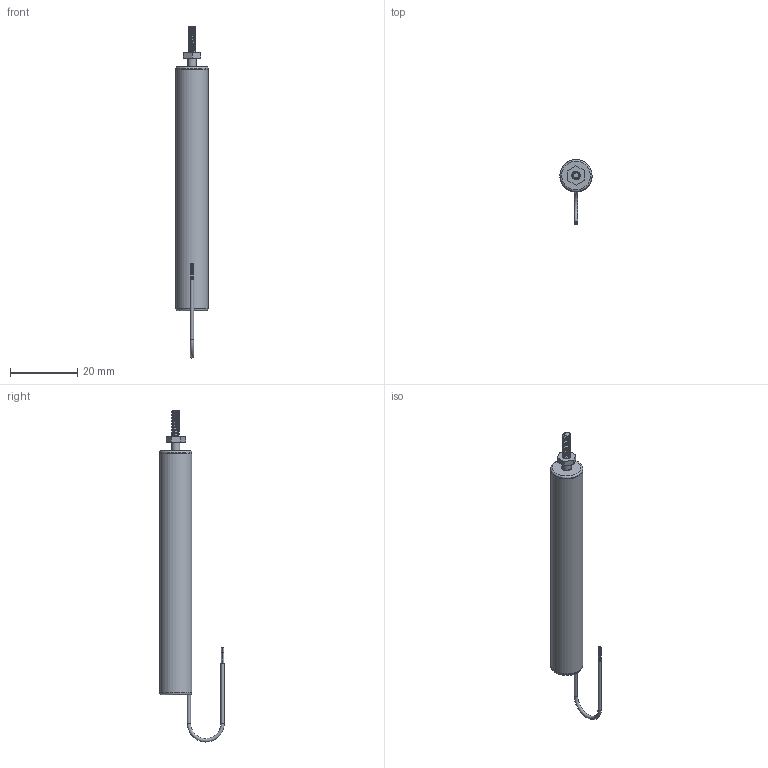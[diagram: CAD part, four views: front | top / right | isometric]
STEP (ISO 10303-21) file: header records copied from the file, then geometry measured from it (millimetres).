
FILE_DESCRIPTION(/* description */ (''),/* implementation_level */ '2;1');
FILE_NAME(/* name */ 'ILPS-9.5Z-025-A-00-YY-S Assembly (wrapped).stp',/* time_stamp */ '2024-06-10T15:18:42-04:00',/* author */ ('Justin'),/* organization */ (''),/* preprocessor_version */ 'ST-DEVELOPER v20',/* originating_system */ 'Autodesk Inventor 2025',/* authorisation */ '');
FILE_SCHEMA (('AUTOMOTIVE_DESIGN { 1 0 10303 214 3 1 1 }'));
Length unit declared in the file: inch
Products named in the file (5): 3020-0020-XX Assembly_SW; 3020-0020-XX Assembly_Simplify_1; 3020-0020-XX Shaft_SW; Wire; BS 4183 - M2.5
Assembly tree (4 placements, depth 2):
  3020-0020-XX Assembly_SW
    3020-0020-XX Assembly_Simplify_1
    3020-0020-XX Shaft_SW
    Wire
    BS 4183 - M2.5
Bounding box: 9.53 x 19.15 x 98.49 mm (x, y, z)
Volume: 647.1 mm3; surface area: 6466.4 mm2
Topology: 7 solids, 7 shells, 70 faces, 145 edges, 94 vertices
Faces by surface type: plane 37, cylinder 23, cone 4, torus 3, bspline 3
Full cylindrical faces by diameter (mm): 0.203 x10, 1 x2, 2.013 x1, 2.438 x1, 2.667 x1, 3.175 x3, 9.398 x1, 9.525 x2
Entity records: 3979 total; most frequent: CARTESIAN_POINT 2140, DIRECTION 367, ORIENTED_EDGE 290, AXIS2_PLACEMENT_3D 158, EDGE_CURVE 145, VERTEX_POINT 94, EDGE_LOOP 85, CIRCLE 82
